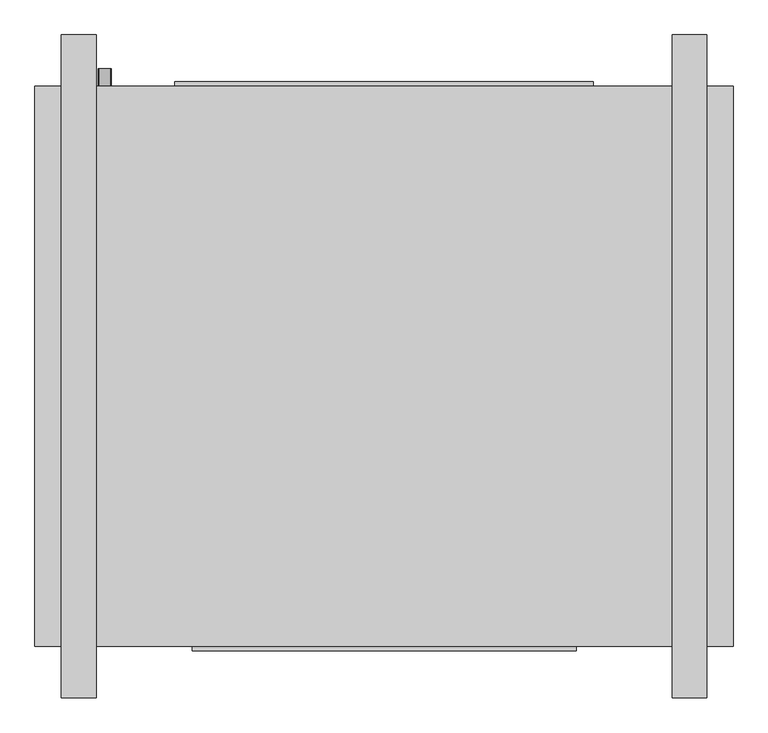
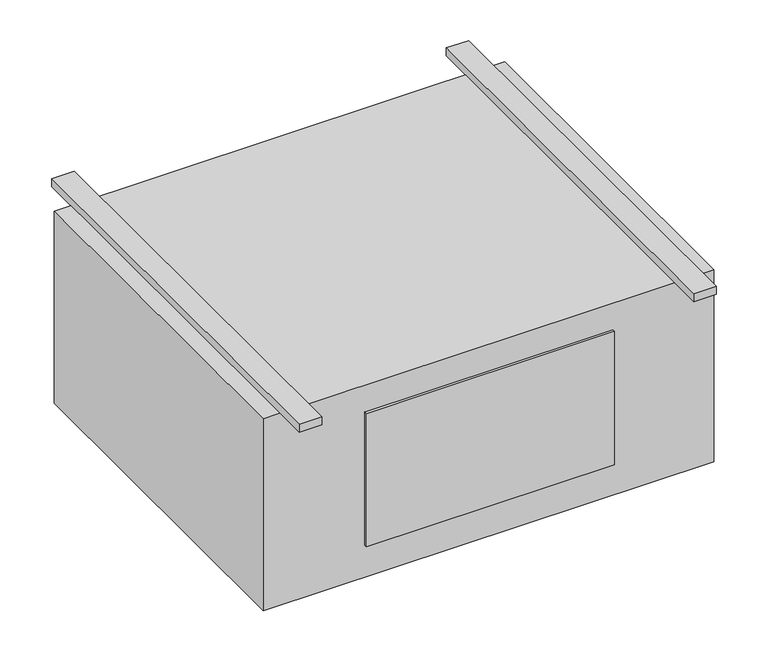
"""IFC4 building model written with IfcOpenShell, lengths in millimetres: proxy geometry, Exposed_High_Capacity_Horizontal_Cabinet_Fan_Coil_Unit_-_42DFA_-_CARRIER_-_2-Pipe_Cool-EHeat_LH_2022 : Size 10 - 277v/60Hz/1Ph - 6 Row 7.0kW."""

from ifc_helpers import new_model, si_unit, point, frame, frame_2d, origin, origin_with_axes, place, context, project, spatial, polyline, circle_curve, trimmed, segment, composite_curve, outline, extrude, source, transform, mapped, element, save


def mechanical_equipment_d08900a7(model_context):
    return source(origin(), model_context, "Body", "SweptSolid", [
        extrude(outline(composite_curve([segment(trimmed(circle_curve(frame_2d((-406.4, -254.0)), 9.525), [point((-406.4, -263.525))], [point((-406.4, -244.475))], False, "CARTESIAN"), True, "CONTINUOUS"), segment(trimmed(circle_curve(frame_2d((-406.4, -254.0)), 9.525), [point((-406.4, -244.475))], [point((-406.4, -263.525))], False, "CARTESIAN"), True, "CONTINUOUS")], self_intersect=False)), frame((0.0, 169.8625, 0.0), z_axis=(0.0, 1.0, 0.0), x_axis=(0.0, 0.0, 1.0)), (0.0, 0.0, 1.0), 25.4),
        extrude(outline(composite_curve([segment(trimmed(circle_curve(frame_2d((-330.2, -254.0)), 7.9375), [point((-330.2, -261.9375))], [point((-330.2, -246.0625))], False, "CARTESIAN"), True, "CONTINUOUS"), segment(trimmed(circle_curve(frame_2d((-330.2, -254.0)), 7.9375), [point((-330.2, -246.0625))], [point((-330.2, -261.9375))], False, "CARTESIAN"), True, "CONTINUOUS")], self_intersect=False)), frame((0.0, 169.8625, 0.0), z_axis=(0.0, 1.0, 0.0), x_axis=(0.0, 0.0, 1.0)), (0.0, 0.0, 1.0), 25.4),
        extrude(outline(composite_curve([segment(trimmed(circle_curve(frame_2d((-254.0, -254.0)), 7.9375), [point((-254.0, -261.9375))], [point((-254.0, -246.0625))], False, "CARTESIAN"), True, "CONTINUOUS"), segment(trimmed(circle_curve(frame_2d((-254.0, -254.0)), 7.9375), [point((-254.0, -246.0625))], [point((-254.0, -261.9375))], False, "CARTESIAN"), True, "CONTINUOUS")], self_intersect=False)), frame((0.0, 169.8625, 0.0), z_axis=(0.0, 1.0, 0.0), x_axis=(0.0, 0.0, 1.0)), (0.0, 0.0, 1.0), 25.4),
        extrude(outline(polyline([(660.4, 169.8625), (660.4, -646.1125), (-355.6, -646.1125), (-355.6, 169.8625), (660.4, 169.8625)])), frame((0.0, 0.0, -457.2), z_axis=(0.0, 0.0, 1.0), x_axis=(1.0, 0.0, 0.0)), (0.0, 0.0, 1.0), 457.2),
        extrude(outline(polyline([(-152.4, 176.2125), (457.2, 176.2125), (457.2, 169.8625), (-152.4, 169.8625), (-152.4, 176.2125)])), frame((0.0, 0.0, -381.0), z_axis=(0.0, 0.0, 1.0), x_axis=(1.0, 0.0, 0.0)), (0.0, 0.0, 1.0), 355.6),
        extrude(outline(polyline([(-266.7, 244.475), (-266.7, -720.725), (-317.5, -720.725), (-317.5, 244.475), (-266.7, 244.475)])), origin_with_axes(), (0.0, 0.0, 1.0), 19.05),
        extrude(outline(polyline([(622.3, 244.475), (622.3, -720.725), (571.5, -720.725), (571.5, 244.475), (622.3, 244.475)])), origin_with_axes(), (0.0, 0.0, 1.0), 19.05),
        extrude(outline(polyline([(431.8, -652.4625), (-127.0, -652.4625), (-127.0, -646.1125), (431.8, -646.1125), (431.8, -652.4625)])), frame((0.0, 0.0, -381.0), z_axis=(0.0, 0.0, 1.0), x_axis=(1.0, 0.0, 0.0)), (0.0, 0.0, 1.0), 317.5),
    ])


if __name__ == "__main__":
    model = new_model("IFC4")
    model_context = context("Model", 3, world=origin())
    ifc_project = project(units=[si_unit("LENGTHUNIT", "METRE", prefix="MILLI")], contexts=[model_context])
    site = spatial("IfcSite", under=ifc_project)
    building = spatial("IfcBuilding", under=site)
    placement = place(None, origin())
    mechanical_equipment_shape = mechanical_equipment_d08900a7(model_context)
    element("IfcBuildingElementProxy", 1, Name="Exposed_High_Capacity_Horizontal_Cabinet_Fan_Coil_Unit_-_42DFA_-_CARRIER_-_2-Pipe_Cool-EHeat_LH_2022 : Size 10 - 277v/60Hz/1Ph - 6 Row 7.0kW", ObjectType="Exposed_High_Capacity_Horizontal_Cabinet_Fan_Coil_Unit_-_42DFA_-_CARRIER_-_2-Pipe_Cool-EHeat_LH_2022 : Size 10 - 277v/60Hz/1Ph - 6 Row 7.0kW", at=placement, inside=building, context=model_context, shape_type="MappedRepresentation", body=[
        mapped(mechanical_equipment_shape, transform((0.0, 0.0, 0.0), x_axis=(1.0, 0.0, 0.0), y_axis=(0.0, 1.0, 0.0), z_axis=(0.0, 0.0, 1.0))),
    ])
    save(model, "model.ifc")
